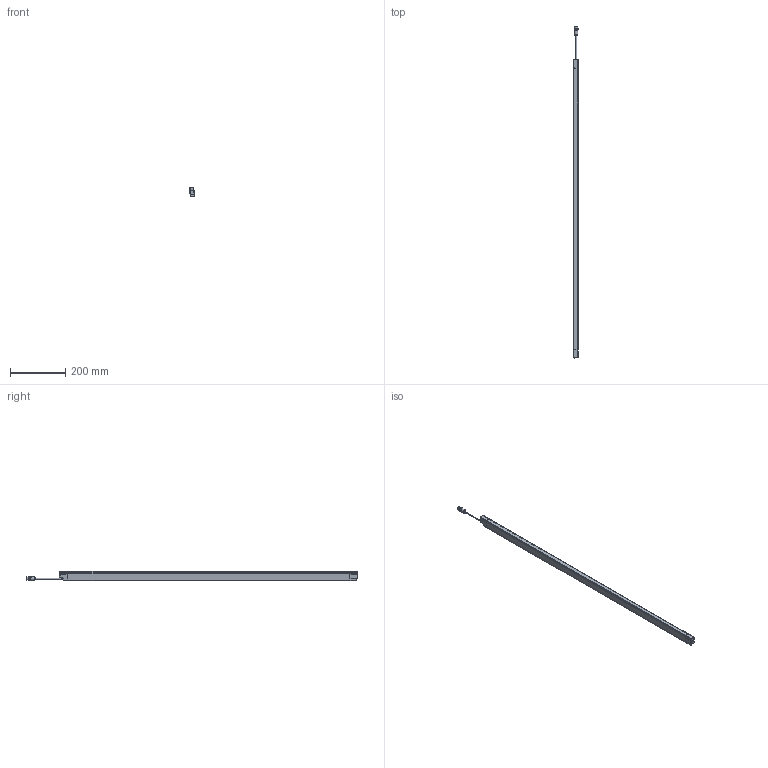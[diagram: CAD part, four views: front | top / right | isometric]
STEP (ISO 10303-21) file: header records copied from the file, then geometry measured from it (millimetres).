
FILE_DESCRIPTION(/* description */ (''),/* implementation_level */ '2;1');
FILE_NAME(/* name */ 'DSD-0651.stp',/* time_stamp */ '2015-02-23T17:51:56+01:00',/* author */ (''),/* organization */ (''),/* preprocessor_version */ 'ST-DEVELOPER v11',/* originating_system */ 'SIEMENS PLM Software NX 7.5',/* authorisation */ '');
FILE_SCHEMA (('AUTOMOTIVE_DESIGN { 1 0 10303 214 1 1 1 1 }'));
Length unit declared in the file: millimetre
Products named in the file (1): AP008173_00
Bounding box: 17.36 x 1200.24 x 33.46 mm (x, y, z)
Surface area: 132600 mm2 (no closed solid volume)
Topology: 0 solids, 40 shells, 1031 faces, 3700 edges, 2584 vertices
Faces by surface type: cylinder 389, plane 296, bspline 139, torus 109, sphere 66, cone 32
Full cylindrical faces by diameter (mm): 1 x5, 1.2 x2, 2.6 x6, 4 x1, 8.3 x1, 9.4 x1, 10.4 x1, 12 x1, 13 x1, 13.5 x1, 14.5 x2
Entity records: 45192 total; most frequent: CARTESIAN_POINT 14421, DIRECTION 6605, ORIENTED_EDGE 5663, EDGE_CURVE 3584, VERTEX_POINT 2556, AXIS2_PLACEMENT_3D 2478, LINE 1649, VECTOR 1649
